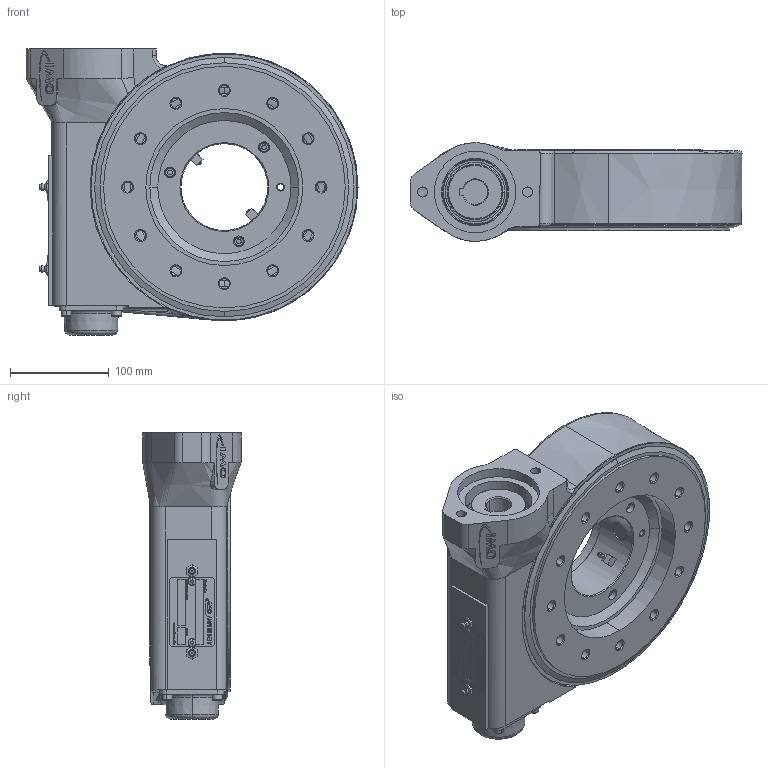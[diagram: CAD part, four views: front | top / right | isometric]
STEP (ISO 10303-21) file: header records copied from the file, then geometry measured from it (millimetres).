
FILE_DESCRIPTION (( 'STEP AP214' ), '1' );
FILE_NAME ('WD-L0156-3-07871 c.STEP', '2013-06-25T14:31:14', ( '' ), ( '' ), 'SwSTEP 2.0', 'SolidWorks 2011', '' );
FILE_SCHEMA (( 'AUTOMOTIVE_DESIGN' ));
Length unit declared in the file: millimetre
Products named in the file (1): WD-L0156-3-07871 c
Bounding box: 336.48 x 99.97 x 290 mm (x, y, z)
Surface area: 327190 mm2 (no closed solid volume)
Topology: 0 solids, 30 shells, 527 faces, 2110 edges, 1661 vertices
Faces by surface type: plane 219, cylinder 156, cone 78, torus 52, bspline 21, sphere 1
Entity records: 33672 total; most frequent: CARTESIAN_POINT 10537, ORIENTED_EDGE 3616, DIRECTION 3247, EDGE_CURVE 2097, VERTEX_POINT 1661, AXIS2_PLACEMENT_3D 1102, VECTOR 1043, LINE 1043
